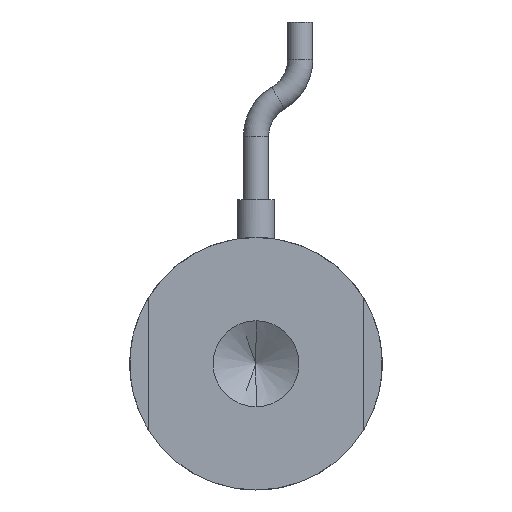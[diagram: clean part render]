
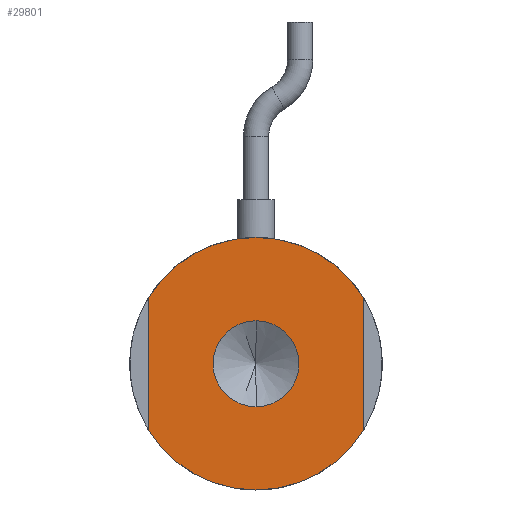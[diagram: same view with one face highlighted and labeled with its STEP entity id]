
A CAD part, front view. The second image highlights one B-rep face of the part: STEP entity #29801.
In plain terms, the highlighted planar face has unit normal (0, -1, 0).
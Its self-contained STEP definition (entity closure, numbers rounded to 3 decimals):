
#1 = EDGE_CURVE ( 'NONE', #18999, #16197, #44350, .T. ) ;
#772 = ORIENTED_EDGE ( 'NONE', *, *, #32073, .F. ) ;
#1062 = CARTESIAN_POINT ( 'NONE',  ( 0., 0., -10. ) ) ;
#1941 = AXIS2_PLACEMENT_3D ( 'NONE', #41175, #20187, #44667 ) ;
#2286 = CARTESIAN_POINT ( 'NONE',  ( 0., 0., 0. ) ) ;
#2380 = EDGE_LOOP ( 'NONE', ( #14896, #38572, #38711, #27891, #772, #4241 ) ) ;
#2388 = VECTOR ( 'NONE', #23075, 1000. ) ;
#2488 = CARTESIAN_POINT ( 'NONE',  ( 0., 0., 0. ) ) ;
#2844 = DIRECTION ( 'NONE',  ( 0., 1., 0. ) ) ;
#2981 = CARTESIAN_POINT ( 'NONE',  ( 0., 0., 0. ) ) ;
#3045 = DIRECTION ( 'NONE',  ( 0., 0., 1. ) ) ;
#4241 = ORIENTED_EDGE ( 'NONE', *, *, #21587, .F. ) ;
#4721 = CIRCLE ( 'NONE', #12568, 3.4 ) ;
#6037 = DIRECTION ( 'NONE',  ( 0., 0., -1. ) ) ;
#6534 = DIRECTION ( 'NONE',  ( 0., 0., 1. ) ) ;
#6764 = CIRCLE ( 'NONE', #17022, 10. ) ;
#7742 = CARTESIAN_POINT ( 'NONE',  ( 0., 0., 0. ) ) ;
#8228 = CARTESIAN_POINT ( 'NONE',  ( 0., 0., 10. ) ) ;
#8303 = VECTOR ( 'NONE', #10275, 1000. ) ;
#8380 = CARTESIAN_POINT ( 'NONE',  ( -8.5, 0., -5.268 ) ) ;
#10095 = VERTEX_POINT ( 'NONE', #16537 ) ;
#10275 = DIRECTION ( 'NONE',  ( 0., 0., -1. ) ) ;
#10577 = EDGE_CURVE ( 'NONE', #38764, #10095, #36452, .T. ) ;
#11242 = PLANE ( 'NONE',  #18016 ) ;
#11938 = CARTESIAN_POINT ( 'NONE',  ( 0., 0., 0. ) ) ;
#11948 = DIRECTION ( 'NONE',  ( 0., -1., 0. ) ) ;
#12568 = AXIS2_PLACEMENT_3D ( 'NONE', #2488, #27196, #6037 ) ;
#12842 = CARTESIAN_POINT ( 'NONE',  ( 0., 0., -3.4 ) ) ;
#13221 = ORIENTED_EDGE ( 'NONE', *, *, #23718, .F. ) ;
#14830 = DIRECTION ( 'NONE',  ( 0., 1., 0. ) ) ;
#14880 = EDGE_CURVE ( 'NONE', #10095, #18999, #24253, .T. ) ;
#14896 = ORIENTED_EDGE ( 'NONE', *, *, #30970, .F. ) ;
#15299 = ORIENTED_EDGE ( 'NONE', *, *, #32940, .F. ) ;
#15509 = DIRECTION ( 'NONE',  ( 0., 0., 1. ) ) ;
#16197 = VERTEX_POINT ( 'NONE', #8380 ) ;
#16537 = CARTESIAN_POINT ( 'NONE',  ( 8.5, 0., -5.268 ) ) ;
#17005 = CARTESIAN_POINT ( 'NONE',  ( -8.5, 0., 5.268 ) ) ;
#17022 = AXIS2_PLACEMENT_3D ( 'NONE', #2981, #27668, #6534 ) ;
#17310 = VERTEX_POINT ( 'NONE', #8228 ) ;
#18016 = AXIS2_PLACEMENT_3D ( 'NONE', #7742, #14830, #39455 ) ;
#18292 = VERTEX_POINT ( 'NONE', #12842 ) ;
#18999 = VERTEX_POINT ( 'NONE', #1062 ) ;
#20187 = DIRECTION ( 'NONE',  ( 0., 1., 0. ) ) ;
#20831 = CARTESIAN_POINT ( 'NONE',  ( 8.5, 0., 0. ) ) ;
#21587 = EDGE_CURVE ( 'NONE', #22235, #17310, #32357, .T. ) ;
#22235 = VERTEX_POINT ( 'NONE', #17005 ) ;
#23029 = EDGE_LOOP ( 'NONE', ( #13221, #15299 ) ) ;
#23075 = DIRECTION ( 'NONE',  ( 0., 0., 1. ) ) ;
#23316 = AXIS2_PLACEMENT_3D ( 'NONE', #33121, #11948, #36650 ) ;
#23718 = EDGE_CURVE ( 'NONE', #18292, #24950, #4721, .T. ) ;
#24253 = CIRCLE ( 'NONE', #38430, 10. ) ;
#24950 = VERTEX_POINT ( 'NONE', #40670 ) ;
#27196 = DIRECTION ( 'NONE',  ( 0., -1., 0. ) ) ;
#27279 = FACE_OUTER_BOUND ( 'NONE', #2380, .T. ) ;
#27668 = DIRECTION ( 'NONE',  ( 0., 1., 0. ) ) ;
#27891 = ORIENTED_EDGE ( 'NONE', *, *, #10577, .F. ) ;
#29430 = LINE ( 'NONE', #33651, #2388 ) ;
#29801 = ADVANCED_FACE ( 'NONE', ( #37715, #27279 ), #11242, .F. ) ;
#30970 = EDGE_CURVE ( 'NONE', #16197, #22235, #29430, .T. ) ;
#32073 = EDGE_CURVE ( 'NONE', #17310, #38764, #6764, .T. ) ;
#32357 = CIRCLE ( 'NONE', #1941, 10. ) ;
#32940 = EDGE_CURVE ( 'NONE', #24950, #18292, #35434, .T. ) ;
#33121 = CARTESIAN_POINT ( 'NONE',  ( 0., 0., 0. ) ) ;
#33278 = AXIS2_PLACEMENT_3D ( 'NONE', #2286, #2844, #3045 ) ;
#33651 = CARTESIAN_POINT ( 'NONE',  ( -8.5, 0., 0. ) ) ;
#35434 = CIRCLE ( 'NONE', #23316, 3.4 ) ;
#36452 = LINE ( 'NONE', #20831, #8303 ) ;
#36640 = DIRECTION ( 'NONE',  ( 0., 1., 0. ) ) ;
#36650 = DIRECTION ( 'NONE',  ( 0., 0., -1. ) ) ;
#37715 = FACE_BOUND ( 'NONE', #23029, .T. ) ;
#38430 = AXIS2_PLACEMENT_3D ( 'NONE', #11938, #36640, #15509 ) ;
#38572 = ORIENTED_EDGE ( 'NONE', *, *, #1, .F. ) ;
#38711 = ORIENTED_EDGE ( 'NONE', *, *, #14880, .F. ) ;
#38764 = VERTEX_POINT ( 'NONE', #44246 ) ;
#39455 = DIRECTION ( 'NONE',  ( 0., 0., 1. ) ) ;
#40670 = CARTESIAN_POINT ( 'NONE',  ( 0., 0., 3.4 ) ) ;
#41175 = CARTESIAN_POINT ( 'NONE',  ( 0., 0., 0. ) ) ;
#44246 = CARTESIAN_POINT ( 'NONE',  ( 8.5, 0., 5.268 ) ) ;
#44350 = CIRCLE ( 'NONE', #33278, 10. ) ;
#44667 = DIRECTION ( 'NONE',  ( 0., 0., 1. ) ) ;
